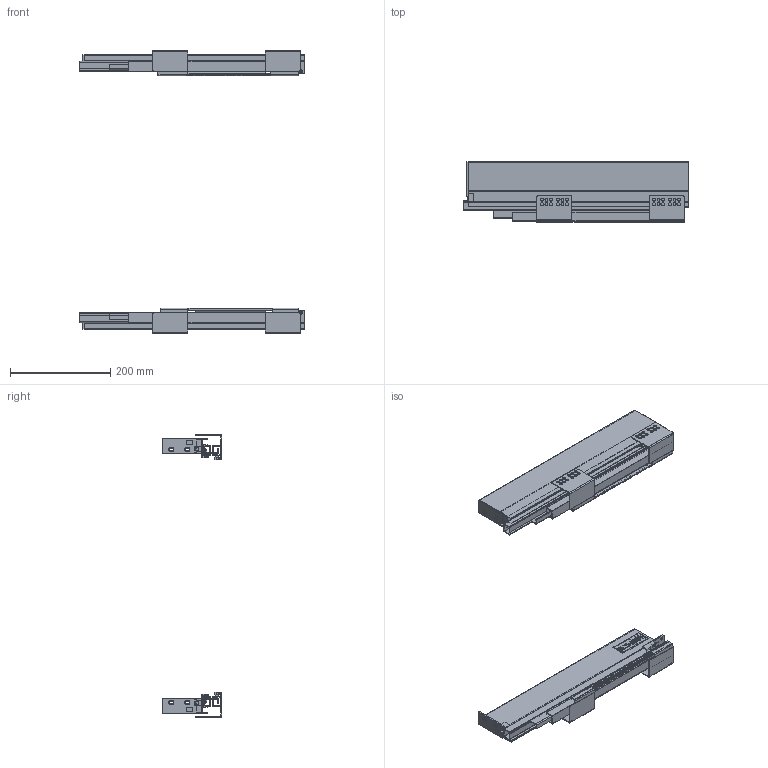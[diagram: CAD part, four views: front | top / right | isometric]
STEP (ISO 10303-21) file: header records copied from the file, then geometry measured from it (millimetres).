
FILE_DESCRIPTION(/* description */ (''),/* implementation_level */ '2;1');
FILE_NAME(/* name */ 'C:\Users\dmitruk\Documents\WORK\\X2\041D0410041F042004100412041B042F042E042904180415\X0\\SLIMBOX\SLIMBOX\SLIMBOX H90 L-450.stp',/* time_stamp */ '2022-04-19T17:17:09+03:00',/* author */ ('dmitruk'),/* organization */ ('AKS'),/* preprocessor_version */ 'ST-DEVELOPER v16.5',/* originating_system */ 'Autodesk Inventor 2017',/* authorisation */ '');
FILE_SCHEMA (('AUTOMOTIVE_DESIGN { 1 0 10303 214 3 1 1 }'));
Length unit declared in the file: millimetre
Products named in the file (12): SLIMBOX 90 мм правый; Боковина SLIMBOX _2; Направляющие \X2\0441043A
0440044B0442043E0433043E\X0\ монтажа \X2\043F
043E043B043D043E0433043E\X0\ \X2\0432044B04340432043804360435043D0438044F
\X0\ SLIMBOX-01; CR SLIMBOX-450; DR SLIMBOX; Крепление \X2\04440430
0441043004340430\X0\ SLIMBOX прав; CR SLIMBOX-500; DL SLIMBOX; Крепление \X2\04440430
0441043004340430\X0\ SLIMBOX лев; slim DW; Крепление к 
фасаду; Заглушка SLIMBOX
Assembly tree (14 placements, depth 3):
  SLIMBOX 90 мм правый
    Боковина SLIMBOX _2
    Направляющие \X2\0441043A
0440044B0442043E0433043E\X0\ монтажа \X2\043F
043E043B043D043E0433043E\X0\ \X2\0432044B04340432043804360435043D0438044F
\X0\ SLIMBOX-01
      CR SLIMBOX-450
      DR SLIMBOX
      slim DW  x2
      Крепление \X2\04440430
0441043004340430\X0\ SLIMBOX прав
      CR SLIMBOX-500
      DL SLIMBOX
      Крепление \X2\04440430
0441043004340430\X0\ SLIMBOX лев
    Крепление к 
фасаду  x2
    Заглушка SLIMBOX  x2
Bounding box: 450 x 119.5 x 564 mm (x, y, z)
Volume: 514126.7 mm3; surface area: 723952.6 mm2
Topology: 31 solids, 31 shells, 1321 faces, 3608 edges, 2409 vertices
Faces by surface type: plane 959, cylinder 346, cone 16
Full cylindrical faces by diameter (mm): 3 x2, 3.8 x4, 4 x4, 4.8 x4, 6 x48, 7.603 x4, 7.801 x2, 8.085 x2, 10.37 x2, 11 x4, 12.231 x2
Entity records: 34649 total; most frequent: CARTESIAN_POINT 5908, ORIENTED_EDGE 5704, DIRECTION 5609, EDGE_CURVE 2852, LINE 2329, VECTOR 2329, VERTEX_POINT 1939, AXIS2_PLACEMENT_3D 1640
